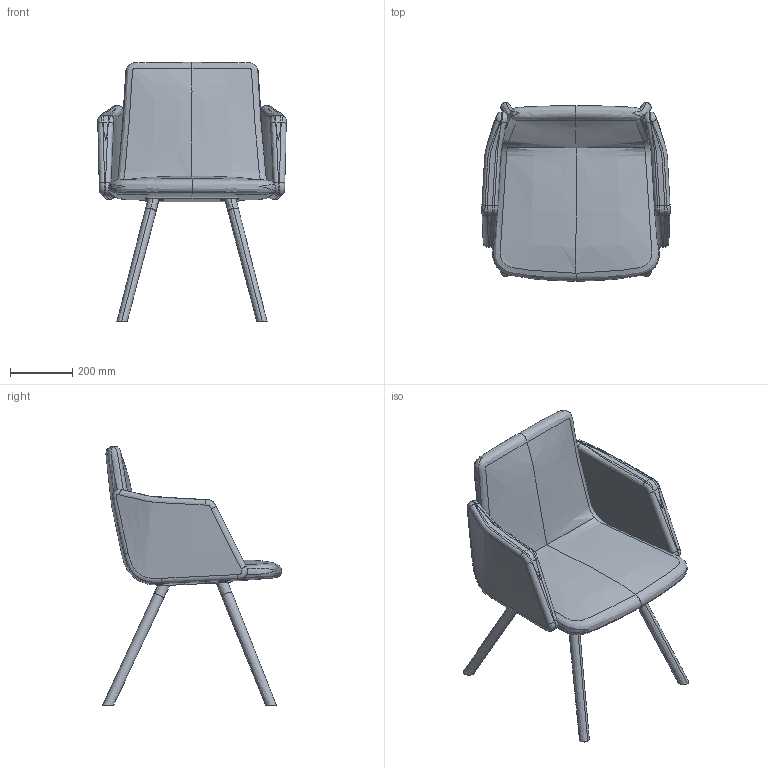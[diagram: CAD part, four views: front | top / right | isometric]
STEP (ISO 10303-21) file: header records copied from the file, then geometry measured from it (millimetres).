
FILE_DESCRIPTION(/* description */ (''),/* implementation_level */ '2;1');
FILE_NAME(/* name */ 'HA3873~1',/* time_stamp */ '2016-07-26T15:45:12+02:00',/* author */ (''),/* organization */ (''),/* preprocessor_version */ 'ST-DEVELOPER v15',/* originating_system */ '',/* authorisation */ '');
FILE_SCHEMA (('CONFIG_CONTROL_DESIGN'));
Length unit declared in the file: millimetre
Products named in the file (1): Document
Bounding box: 606.28 x 576.27 x 833.82 mm (x, y, z)
Volume: 286609.4 mm3; surface area: 1674164.1 mm2
Topology: 1 solids, 16 shells, 129 faces, 335 edges, 223 vertices
Faces by surface type: bspline 123, plane 6
Entity records: 16967 total; most frequent: CARTESIAN_POINT 14990, ORIENTED_EDGE 578, EDGE_CURVE 332, B_SPLINE_CURVE_WITH_KNOTS 226, VERTEX_POINT 217, EDGE_LOOP 131, ADVANCED_FACE 129, FACE_OUTER_BOUND 129
